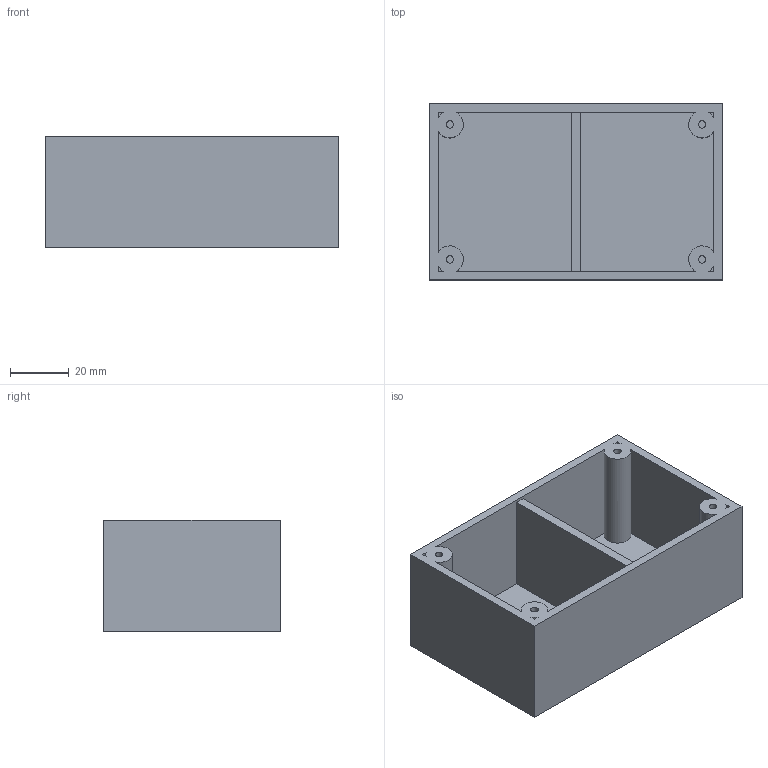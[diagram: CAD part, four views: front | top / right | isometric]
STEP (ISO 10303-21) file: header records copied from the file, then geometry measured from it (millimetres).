
FILE_DESCRIPTION(('Open CASCADE Model'),'2;1');
FILE_NAME('Open CASCADE Shape Model','2026-10-21T17:23:52',('Author'),( 'Open CASCADE'),'Open CASCADE STEP processor 7.9','Open CASCADE 7.9' ,'Unknown');
FILE_SCHEMA(('AUTOMOTIVE_DESIGN { 1 0 10303 214 1 1 1 1 }'));
Length unit declared in the file: millimetre
Products named in the file (1): Open CASCADE STEP translator 7.9 47
Bounding box: 100 x 60 x 38 mm (x, y, z)
Volume: 64403.2 mm3; surface area: 39808.8 mm2
Topology: 1 solids, 1 shells, 43 faces, 96 edges, 64 vertices
Faces by surface type: plane 31, cylinder 12
Full cylindrical faces by diameter (mm): 2.5 x4
Entity records: 2488 total; most frequent: CARTESIAN_POINT 468, DIRECTION 388, LINE 240, VECTOR 240, ORIENTED_EDGE 192, PCURVE 192, DEFINITIONAL_REPRESENTATION 192, EDGE_CURVE 96
